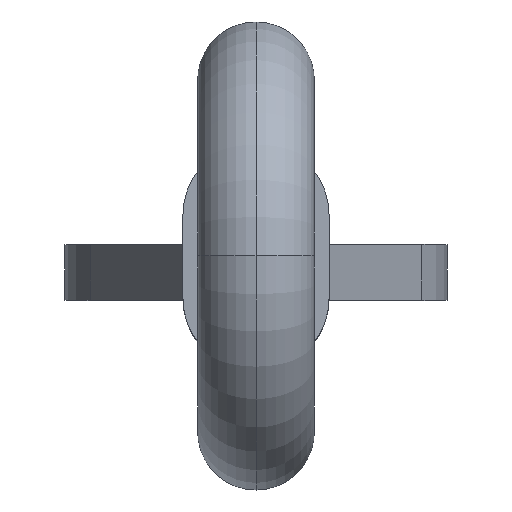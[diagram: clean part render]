
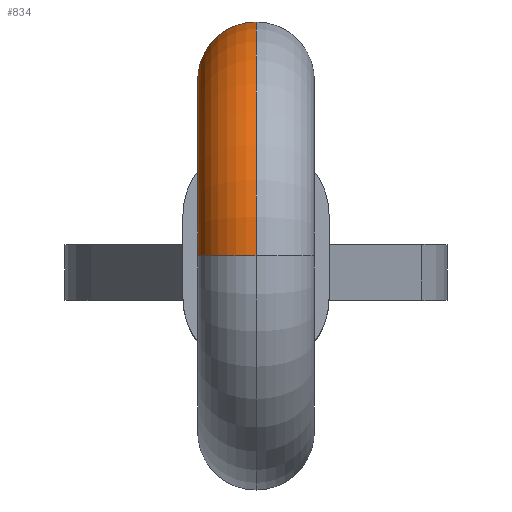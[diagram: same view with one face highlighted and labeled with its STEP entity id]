
A CAD part, top view. The second image highlights one B-rep face of the part: STEP entity #834.
In plain terms, the highlighted toroidal (fillet/blend) face has major radius 4.8 mm and minor radius 1.59 mm.
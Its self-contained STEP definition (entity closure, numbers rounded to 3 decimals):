
#5 = CIRCLE ( 'NONE', #536, 6.39 ) ;
#27 = CIRCLE ( 'NONE', #248, 3.21 ) ;
#44 = DIRECTION ( 'NONE',  ( 0., 0., -1. ) ) ;
#67 = VERTEX_POINT ( 'NONE', #185 ) ;
#85 = CARTESIAN_POINT ( 'NONE',  ( 0., -1.133, 186.2 ) ) ;
#87 = ORIENTED_EDGE ( 'NONE', *, *, #273, .T. ) ;
#134 = TOROIDAL_SURFACE ( 'NONE', #260, 4.8, 1.59 ) ;
#162 = VERTEX_POINT ( 'NONE', #524 ) ;
#178 = VERTEX_POINT ( 'NONE', #995 ) ;
#185 = CARTESIAN_POINT ( 'NONE',  ( 0., 1.259, 184.06 ) ) ;
#207 = DIRECTION ( 'NONE',  ( 0., 0., 1. ) ) ;
#208 = ORIENTED_EDGE ( 'NONE', *, *, #380, .T. ) ;
#248 = AXIS2_PLACEMENT_3D ( 'NONE', #733, #486, #267 ) ;
#250 = DIRECTION ( 'NONE',  ( -1., 0., 0. ) ) ;
#260 = AXIS2_PLACEMENT_3D ( 'NONE', #359, #269, #207 ) ;
#261 = ORIENTED_EDGE ( 'NONE', *, *, #587, .F. ) ;
#267 = DIRECTION ( 'NONE',  ( 0., 0., 1. ) ) ;
#269 = DIRECTION ( 'NONE',  ( -1., 0., 0. ) ) ;
#273 = EDGE_CURVE ( 'NONE', #448, #178, #5, .T. ) ;
#321 = CIRCLE ( 'NONE', #590, 1.59 ) ;
#352 = CIRCLE ( 'NONE', #601, 1.59 ) ;
#359 = CARTESIAN_POINT ( 'NONE',  ( 0., -1.133, 186.2 ) ) ;
#380 = EDGE_CURVE ( 'NONE', #178, #67, #352, .T. ) ;
#448 = VERTEX_POINT ( 'NONE', #811 ) ;
#459 = EDGE_LOOP ( 'NONE', ( #261, #87, #208, #845 ) ) ;
#478 = DIRECTION ( 'NONE',  ( 0., 0.667, 0.745 ) ) ;
#486 = DIRECTION ( 'NONE',  ( -1., 0., 0. ) ) ;
#524 = CARTESIAN_POINT ( 'NONE',  ( 0., -1.133, 189.41 ) ) ;
#529 = EDGE_CURVE ( 'NONE', #162, #67, #27, .T. ) ;
#536 = AXIS2_PLACEMENT_3D ( 'NONE', #85, #250, #701 ) ;
#567 = CARTESIAN_POINT ( 'NONE',  ( 0., -1.133, 191. ) ) ;
#587 = EDGE_CURVE ( 'NONE', #448, #162, #321, .T. ) ;
#590 = AXIS2_PLACEMENT_3D ( 'NONE', #567, #959, #44 ) ;
#601 = AXIS2_PLACEMENT_3D ( 'NONE', #860, #478, #787 ) ;
#701 = DIRECTION ( 'NONE',  ( 0., 0., 1. ) ) ;
#733 = CARTESIAN_POINT ( 'NONE',  ( 0., -1.133, 186.2 ) ) ;
#787 = DIRECTION ( 'NONE',  ( 1., 0., 0. ) ) ;
#811 = CARTESIAN_POINT ( 'NONE',  ( 0., -1.133, 192.59 ) ) ;
#834 = ADVANCED_FACE ( 'NONE', ( #887 ), #134, .T. ) ;
#845 = ORIENTED_EDGE ( 'NONE', *, *, #529, .F. ) ;
#860 = CARTESIAN_POINT ( 'NONE',  ( 0., 2.445, 183. ) ) ;
#887 = FACE_OUTER_BOUND ( 'NONE', #459, .T. ) ;
#959 = DIRECTION ( 'NONE',  ( 0., -1., 0. ) ) ;
#995 = CARTESIAN_POINT ( 'NONE',  ( 0., 3.63, 181.94 ) ) ;
